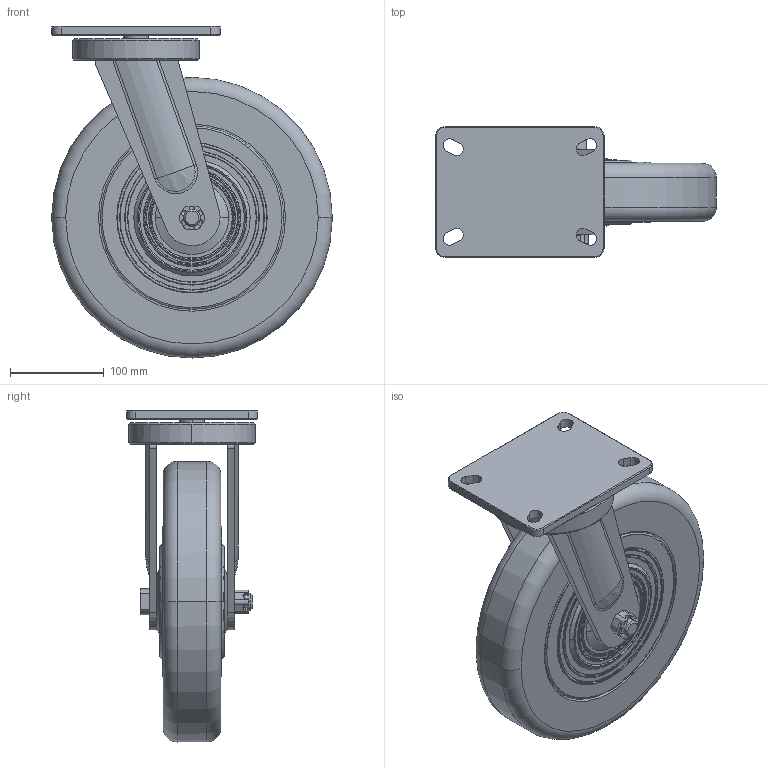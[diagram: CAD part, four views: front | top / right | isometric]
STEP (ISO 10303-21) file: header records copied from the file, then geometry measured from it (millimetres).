
FILE_DESCRIPTION(/* description */ (''),/* implementation_level */ '2;1');
FILE_NAME(/* name */ '35B13_12_F.stp',/* time_stamp */ '2022-08-27T16:55:09+08:00',/* author */ (''),/* organization */ (''),/* preprocessor_version */ 'ST-DEVELOPER v14',/* originating_system */ 'SIEMENS PLM Software NX 8.0',/* authorisation */ '');
FILE_SCHEMA (('AUTOMOTIVE_DESIGN { 1 0 10303 214 3 1 1 1 }'));
Length unit declared in the file: millimetre
Products named in the file (1): 35B13_12_F
Bounding box: 300 x 140 x 355 mm (x, y, z)
Volume: 4431359.9 mm3; surface area: 494188 mm2
Topology: 1 solids, 3 shells, 572 faces, 1409 edges, 898 vertices
Faces by surface type: plane 245, torus 154, cylinder 127, cone 36, bspline 8, extrusion 2
Entity records: 19478 total; most frequent: CARTESIAN_POINT 5296, DIRECTION 3313, ORIENTED_EDGE 2818, AXIS2_PLACEMENT_3D 1438, EDGE_CURVE 1409, VERTEX_POINT 898, EDGE_LOOP 643, ADVANCED_FACE 572
